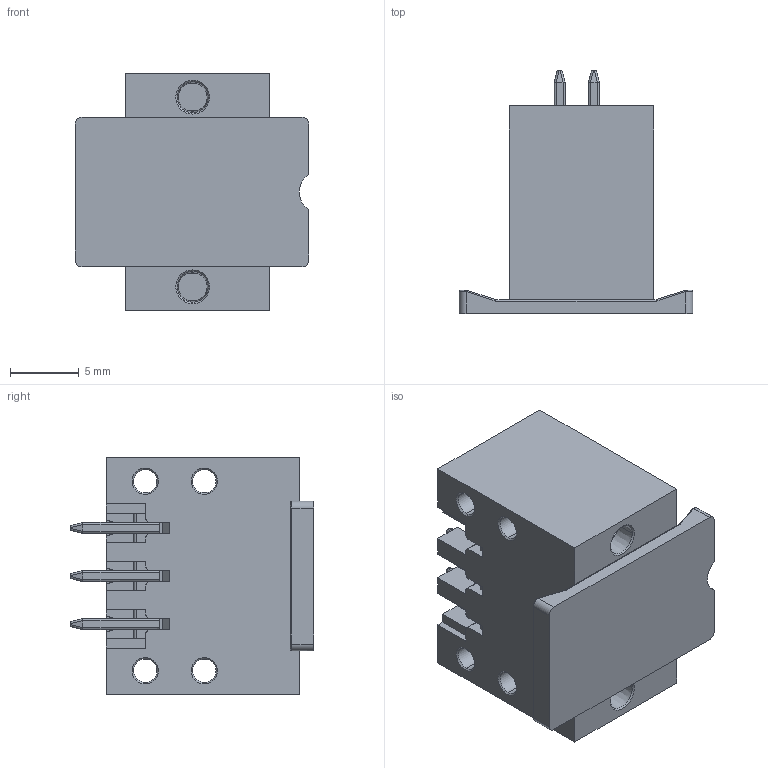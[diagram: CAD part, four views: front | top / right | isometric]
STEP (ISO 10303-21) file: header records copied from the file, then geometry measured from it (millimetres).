
FILE_DESCRIPTION((''),'2;1');
FILE_NAME('VX0612300000G','2021-05-13T',('renkang.li'),(''),'CREO PARAMETRIC BY PTC INC, 2016260','CREO PARAMETRIC BY PTC INC, 2016260','');
FILE_SCHEMA(('CONFIG_CONTROL_DESIGN'));
Length unit declared in the file: millimetre
Products named in the file (1): VX0612300000G
Bounding box: 17 x 17.7 x 17.3 mm (x, y, z)
Volume: 1554.7 mm3; surface area: 3301.3 mm2
Topology: 1 solids, 1 shells, 808 faces, 2356 edges, 1521 vertices
Faces by surface type: plane 549, cylinder 167, cone 28, bspline 24, extrusion 24, torus 12, sphere 4
Entity records: 28962 total; most frequent: CARTESIAN_POINT 8098, ORIENTED_EDGE 4712, DIRECTION 3805, EDGE_CURVE 2356, VECTOR 1695, LINE 1671, VERTEX_POINT 1521, AXIS2_PLACEMENT_3D 1055
